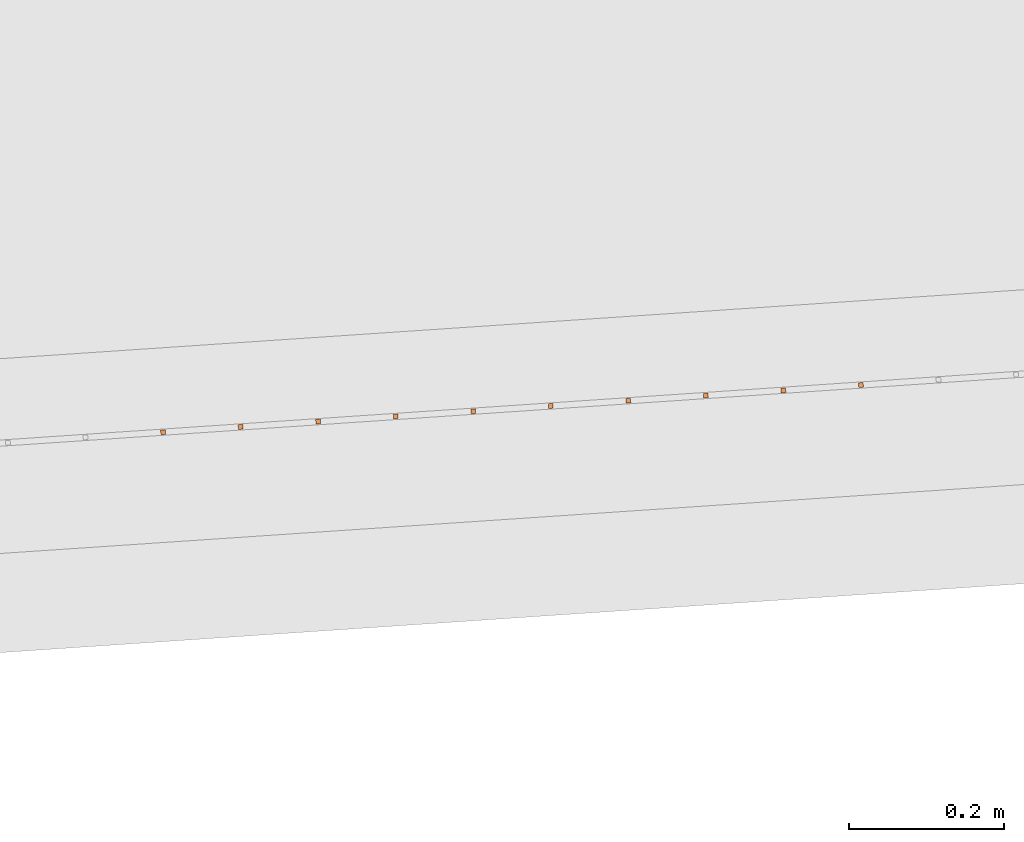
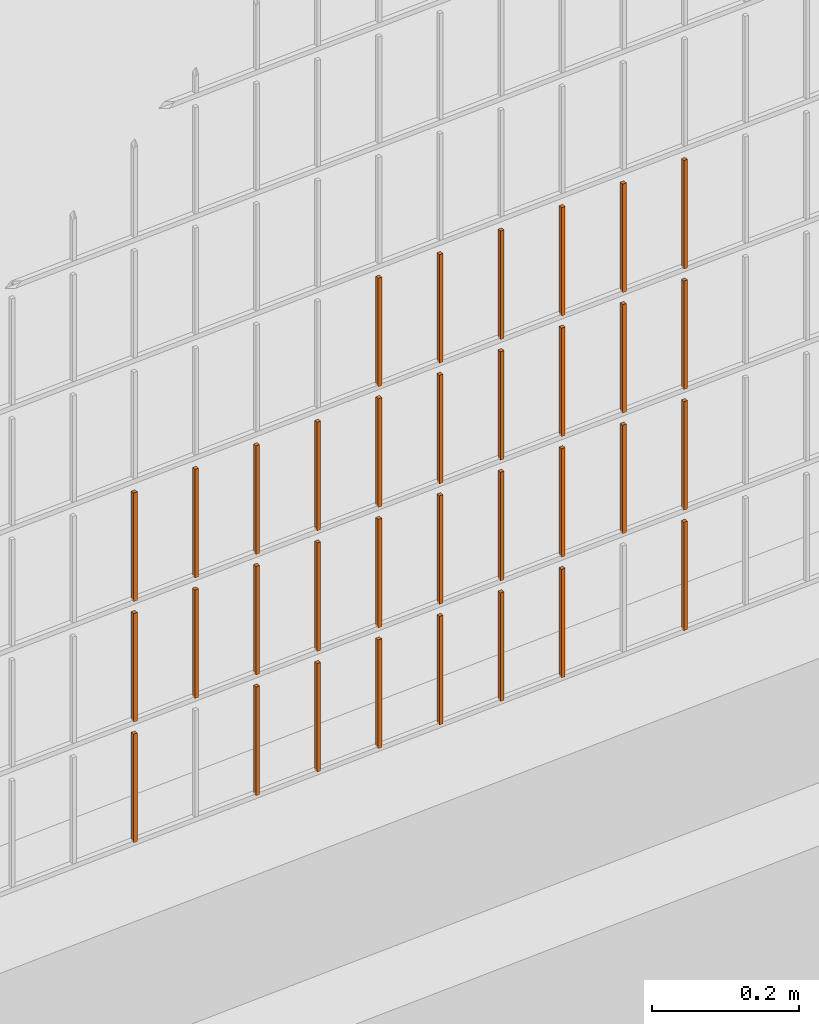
# One storey, part 280 of 1809: 34 proxies, 1 element without a shape of its own.
"""IFC2X3 building model written with IfcOpenShell, lengths in millimetres."""

import ifcopenshell
import ifcopenshell.guid

model = None  # the IFC model being written
_history = None  # IfcOwnerHistory: only IFC2X3 demands one
_inside = {}  # id of a spatial element -> (the spatial element, [elements in it])
_under = {}  # id of a project, library or spatial element -> (it, [spatial elements below it])
_declared = {}  # id of a project -> (the project, [libraries it declares])
_typed = {}  # id of a type object -> (the type object, [elements of that type])
_made_of = {}  # id of a material, layer set ... -> (it, [elements and type objects made of it])


def new_model(schema):
    """Start an empty IFC model of exactly this schema.

    Asked for "IFC4X3", IfcOpenShell would pick the latest addendum, in which some entities
    have other attributes; the version numbers below select the first issue.
    IFC2X3 requires an IfcOwnerHistory on every rooted entity: one is made here for all.
    """
    global model, _history
    if schema == "IFC4X3":
        model = ifcopenshell.file(schema_version=(4, 3, 0, 0))
    else:
        model = ifcopenshell.file(schema=schema)
    _inside.clear()
    _under.clear()
    _declared.clear()
    _typed.clear()
    _made_of.clear()
    _history = None
    if model.schema == "IFC2X3":
        org = make("IfcOrganization", Name="unknown")
        user = make(
            "IfcPersonAndOrganization",
            ThePerson=make("IfcPerson", FamilyName="unknown"),
            TheOrganization=org,
        )
        app = make(
            "IfcApplication",
            ApplicationDeveloper=org,
            Version="unknown",
            ApplicationFullName="unknown",
            ApplicationIdentifier="unknown",
        )
        _history = make(
            "IfcOwnerHistory",
            OwningUser=user,
            OwningApplication=app,
            ChangeAction="ADDED",
            CreationDate=0,
        )
    return model


def make(cls, **values):
    """One entity of the class cls with the attributes given. An attribute that is None is left unset."""
    return model.create_entity(
        cls, **{name: value for name, value in values.items() if value is not None}
    )


def entity(cls, *values):
    """Any entity or typed value of the class cls, its attributes in the order of the schema. None: left unset."""
    e = model.create_entity(cls)
    for i, value in enumerate(values):
        if value is not None:
            e[i] = value
    return e


def rooted(cls, **values):
    """An entity with a GlobalId (a new one), such as an element, a storey or a relation."""
    return make(cls, GlobalId=ifcopenshell.guid.new(), OwnerHistory=_history, **values)


def si_unit(unit_type, name, prefix=None):
    """IfcSIUnit, for example si_unit("LENGTHUNIT", "METRE", prefix="MILLI")."""
    return make("IfcSIUnit", UnitType=unit_type, Prefix=prefix, Name=name)


def converted_unit(unit_type, name, factor, base, dimensions=None, offset=None):
    """IfcConversionBasedUnit, such as the inch: factor (a typed value) times the base unit."""
    return make(
        "IfcConversionBasedUnit"
        if offset is None
        else "IfcConversionBasedUnitWithOffset",
        ConversionOffset=offset,
        Dimensions=None
        if dimensions is None
        else entity("IfcDimensionalExponents", *dimensions),
        UnitType=unit_type,
        Name=name,
        ConversionFactor=make(
            "IfcMeasureWithUnit", ValueComponent=factor, UnitComponent=base
        ),
    )


def derived_unit(unit_type, elements):
    """IfcDerivedUnit: a product of units, each with its exponent."""
    return make(
        "IfcDerivedUnit",
        Elements=[
            make("IfcDerivedUnitElement", Unit=unit, Exponent=power)
            for unit, power in elements
        ],
        UnitType=unit_type,
    )


def money_unit(currency):
    """IfcMonetaryUnit."""
    return make("IfcMonetaryUnit", Currency=currency)


def assignment(units):
    """IfcUnitAssignment: the units of a project."""
    return None if units is None else make("IfcUnitAssignment", Units=units)


def point(xyz):
    """IfcCartesianPoint."""
    return None if xyz is None else make("IfcCartesianPoint", Coordinates=xyz)


def direction(xyz):
    """IfcDirection."""
    return None if xyz is None else make("IfcDirection", DirectionRatios=xyz)


def frame(location, z_axis=None, x_axis=None):
    """IfcAxis2Placement3D, a coordinate frame: its origin and axes. An axis left out is left unset."""
    return make(
        "IfcAxis2Placement3D",
        Location=point(location),
        Axis=direction(z_axis),
        RefDirection=direction(x_axis),
    )


def origin_with_axes():
    """The frame at (0, 0, 0) with the z axis (0, 0, 1) and the x axis (1, 0, 0) written out."""
    return frame((0.0, 0.0, 0.0), z_axis=(0.0, 0.0, 1.0), x_axis=(1.0, 0.0, 0.0))


def place(relative_to, where):
    """IfcLocalPlacement: puts the frame where relative to a parent placement (None: the world)."""
    return make(
        "IfcLocalPlacement", PlacementRelTo=relative_to, RelativePlacement=where
    )


def context(
    kind, dimensions, precision=None, world=None, true_north=None, identifier=None
):
    """IfcGeometricRepresentationContext, for example the 3D "Model" context."""
    return make(
        "IfcGeometricRepresentationContext",
        ContextIdentifier=identifier,
        ContextType=kind,
        CoordinateSpaceDimension=dimensions,
        Precision=precision,
        WorldCoordinateSystem=world,
        TrueNorth=true_north,
    )


def subcontext(parent, identifier, kind, view, scale=None):
    """IfcGeometricRepresentationSubContext, for example "Body" below "Model"."""
    return make(
        "IfcGeometricRepresentationSubContext",
        ContextIdentifier=identifier,
        ContextType=kind,
        ParentContext=parent,
        TargetScale=scale,
        TargetView=view,
    )


def project(units=None, contexts=None):
    """IfcProject with its units and contexts."""
    return rooted(
        "IfcProject",
        Name="project",
        RepresentationContexts=contexts,
        UnitsInContext=assignment(units),
    )


def spatial(cls, under=None, at=None, **own):
    """A site, building, storey or space (cls), placed at a placement, below another one or the project."""
    s = rooted(cls, ObjectPlacement=at, **own)
    if under is not None:
        _under.setdefault(under.id(), (under, []))[1].append(s)
    return s


def faces_of(points, faces, orient=None, outer=None):
    """IfcFace entities. A face is a list of loops; a loop is a list of indices into points, from 0.

    orient and outer hold one flag for each loop. By default every Orientation is true, the
    first loop of a face is its IfcFaceOuterBound and the others are IfcFaceBound.
    """
    made = []
    for i, loops in enumerate(faces):
        bounds = []
        for j, loop in enumerate(loops):
            is_outer = j == 0 if outer is None else outer[i][j]
            bounds.append(
                make(
                    "IfcFaceOuterBound" if is_outer else "IfcFaceBound",
                    Bound=make("IfcPolyLoop", Polygon=[points[k] for k in loop]),
                    Orientation=True if orient is None else orient[i][j],
                )
            )
        made.append(make("IfcFace", Bounds=bounds))
    return made


def faceted_brep(points, faces, orient=None, outer=None, voids=None):
    """IfcFacetedBrep: a solid bounded by flat faces; with voids (closed shells), ...WithVoids."""
    shared = [point(p) for p in points]
    hull = make("IfcClosedShell", CfsFaces=faces_of(shared, faces, orient, outer))
    if voids is None:
        return make("IfcFacetedBrep", Outer=hull)
    return make(
        "IfcFacetedBrepWithVoids",
        Outer=hull,
        Voids=[
            make(cls, CfsFaces=faces_of(shared, fs, o, b)) for cls, fs, o, b in voids
        ],
    )


def shape(context_of_items, identifier, shape_type, items):
    """IfcShapeRepresentation: the items that make up one representation, for example the "Body"."""
    return make(
        "IfcShapeRepresentation",
        ContextOfItems=context_of_items,
        RepresentationIdentifier=identifier,
        RepresentationType=shape_type,
        Items=items,
    )


def source(mapping_origin, context_of_items, identifier, shape_type, items):
    """IfcRepresentationMap: a shape defined once, which mapped items show again and again."""
    return make(
        "IfcRepresentationMap",
        MappingOrigin=mapping_origin,
        MappedRepresentation=shape(context_of_items, identifier, shape_type, items),
    )


def transform(
    local_origin,
    x_axis=None,
    y_axis=None,
    z_axis=None,
    scale=None,
    scale2=None,
    scale3=None,
    uniform=True,
):
    """IfcCartesianTransformationOperator3D, or its non-uniform kind. x_axis, y_axis, z_axis: its Axis1, 2, 3."""
    if uniform:
        return make(
            "IfcCartesianTransformationOperator3D",
            Axis1=direction(x_axis),
            Axis2=direction(y_axis),
            LocalOrigin=point(local_origin),
            Scale=scale,
            Axis3=direction(z_axis),
        )
    return make(
        "IfcCartesianTransformationOperator3DnonUniform",
        Axis1=direction(x_axis),
        Axis2=direction(y_axis),
        LocalOrigin=point(local_origin),
        Scale=scale,
        Axis3=direction(z_axis),
        Scale2=scale2,
        Scale3=scale3,
    )


def mapped(mapping_source, mapping_target):
    """IfcMappedItem: shows the shape of a source again, moved by a transform."""
    return make(
        "IfcMappedItem", MappingSource=mapping_source, MappingTarget=mapping_target
    )


def material(Name=None, Category=None):
    """IfcMaterial."""
    return make("IfcMaterial", Name=Name, Category=Category)


def made_of(thing, what):
    """Note that an element or type object is made of a material, layer set ...; save() writes the relation."""
    if what is not None:
        _made_of.setdefault(what.id(), (what, []))[1].append(thing)
    return thing


def type_object(cls, material=None, **own):
    """A type object (cls), such as IfcWallType, which elements share."""
    return made_of(rooted(cls, **own), material)


def element(
    cls,
    number,
    at=None,
    inside=None,
    cuts=None,
    type_object=None,
    material=None,
    context=None,
    identifier="Body",
    shape_type=None,
    held_by="IfcProductDefinitionShape",
    body=None,
    shapes=None,
    **own,
):
    """One element of the class cls, such as IfcWall. Its Tag is "e" and its number.

    at: its placement. inside: the storey or other place that contains it. cuts: it is an
    opening in that element (IfcRelVoidsElement). A single representation is given by context,
    identifier, shape_type and body (its items); several are given by shapes. held_by: the class
    of the entity that holds the representations. save() writes the other relations.
    """
    e = rooted(cls, Tag="e%d" % number, ObjectPlacement=at, **own)
    if body is not None:
        shapes = [shape(context, identifier, shape_type, body)]
    if shapes is not None:
        e.Representation = make(held_by, Representations=shapes)
    if inside is not None:
        _inside.setdefault(inside.id(), (inside, []))[1].append(e)
    if cuts is not None:
        rooted(
            "IfcRelVoidsElement", RelatingBuildingElement=cuts, RelatedOpeningElement=e
        )
    if type_object is not None:
        _typed.setdefault(type_object.id(), (type_object, []))[1].append(e)
    return made_of(e, material)


def aggregate(whole, parts):
    """IfcRelAggregates: a whole, such as a stair, and the parts it consists of."""
    return rooted("IfcRelAggregates", RelatingObject=whole, RelatedObjects=parts)


def save(model, path):
    """Write the relations noted so far, then the file.

    IfcRelAggregates (storeys below a building ...), IfcRelContainedInSpatialStructure (elements
    in a storey), IfcRelDefinesByType, IfcRelAssociatesMaterial and IfcRelDeclares: one each for
    every whole, place, type object, material and project.
    """
    for whole, parts in _under.values():
        aggregate(whole, parts)
    for where, things in _inside.values():
        rooted(
            "IfcRelContainedInSpatialStructure",
            RelatedElements=things,
            RelatingStructure=where,
        )
    for kind, things in _typed.values():
        rooted("IfcRelDefinesByType", RelatedObjects=things, RelatingType=kind)
    for what, things in _made_of.values():
        rooted("IfcRelAssociatesMaterial", RelatedObjects=things, RelatingMaterial=what)
    for by, libraries in _declared.values():
        rooted("IfcRelDeclares", RelatingContext=by, RelatedDefinitions=libraries)
    model.write(path)


model = new_model("IFC2X3")

# Units and contexts
model_context = context("Model", 3, precision=0.01, world=origin_with_axes(), true_north=direction((0.0, 1.0)))
body_context = subcontext(model_context, "Body", "Model", "MODEL_VIEW")
ifc_project = project(units=[si_unit("LENGTHUNIT", "METRE", prefix="MILLI"), si_unit("AREAUNIT", "SQUARE_METRE"), si_unit("VOLUMEUNIT", "CUBIC_METRE"), converted_unit("PLANEANGLEUNIT", "DEGREE", entity("IfcPlaneAngleMeasure", 0.0174532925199), si_unit("PLANEANGLEUNIT", "RADIAN"), dimensions=[0, 0, 0, 0, 0, 0, 0]), si_unit("SOLIDANGLEUNIT", "STERADIAN"), money_unit("EUR"), converted_unit("TIMEUNIT", "Year", entity("IfcTimeMeasure", 31556926.0), si_unit("TIMEUNIT", "SECOND"), dimensions=[0, 0, 1, 0, 0, 0, 0]), si_unit("MASSUNIT", "GRAM", prefix="KILO"), si_unit("THERMODYNAMICTEMPERATUREUNIT", "DEGREE_CELSIUS"), si_unit("LUMINOUSINTENSITYUNIT", "LUMEN"), si_unit("ENERGYUNIT", "JOULE", prefix="MEGA"), derived_unit("THERMALCONDUCTANCEUNIT", [(si_unit("POWERUNIT", "WATT"), 1), (si_unit("LENGTHUNIT", "METRE"), -1), (si_unit("THERMODYNAMICTEMPERATUREUNIT", "KELVIN"), -1)]), derived_unit("SPECIFICHEATCAPACITYUNIT", [(si_unit("ENERGYUNIT", "JOULE"), 1), (si_unit("MASSUNIT", "GRAM", prefix="KILO"), -1), (si_unit("THERMODYNAMICTEMPERATUREUNIT", "KELVIN"), -1)]), derived_unit("MASSDENSITYUNIT", [(si_unit("MASSUNIT", "GRAM", prefix="KILO"), 1), (si_unit("VOLUMEUNIT", "CUBIC_METRE"), -1)])], contexts=[model_context])

# Site, building, storey
site_placement = place(None, origin_with_axes())
site = spatial("IfcSite", under=ifc_project, at=site_placement, Name="Politse- ja Piirivalveameti ning Päästeameti ühishoone", CompositionType="ELEMENT")
building_placement = place(site_placement, origin_with_axes())
building = spatial("IfcBuilding", under=site, at=building_placement, Name="Politse- ja Piirivalveameti ning Päästeameti ühishoone", CompositionType="ELEMENT")
storey_placement = place(building_placement, origin_with_axes())
storey = spatial("IfcBuildingStorey", under=building, at=storey_placement, Name="Esimene korrus", CompositionType="ELEMENT", Elevation=0.0)

# Proxies
building_element_proxy_type_1 = type_object("IfcBuildingElementProxyType", Name="Railing Type", PredefinedType="NOTDEFINED")
proxy_1_placement = place(storey_placement, frame((89252.001212, -29183.4766571, 203.661247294), z_axis=(0.0, 0.0, 1.0), x_axis=(1.0, 0.0, 0.0)))
proxy_1 = element("IfcBuildingElementProxy", 1, at=proxy_1_placement, inside=storey, type_object=building_element_proxy_type_1, Name="PIIRDEAED")
ifc_material = material(Name="ET-03_Raud")
building_element_proxy_type_2 = type_object("IfcBuildingElementProxyType", Name="IfcBuildingElementProxy", PredefinedType="NOTDEFINED")
shared_shape_1 = source(origin_with_axes(), body_context, "Body", "Brep", [
    faceted_brep([(3.0, 3.0, -0.000752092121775), (-3.0, 3.0, -0.000752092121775), (-3.0, 3.0, 179.99926046), (3.0, 3.0, 179.99926046), (3.0, -3.0, 0.000752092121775), (-3.0, -3.0, 0.000752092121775), (-3.0, -3.0, 180.000764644), (3.0, -3.0, 180.000764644)], [[[0, 1, 2, 3]], [[0, 4, 5, 1]], [[1, 5, 6, 2]], [[3, 2, 6, 7]], [[4, 0, 3, 7]], [[5, 4, 7, 6]]]),
])
proxy_2_placement = place(proxy_1_placement, frame((-50711.135031, -20723.120556, 14.4922683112), z_axis=(0.0, 0.0, 1.0), x_axis=(1.0, 0.0, 0.0)))
proxy_2 = element("IfcBuildingElementProxy", 2, at=proxy_2_placement, type_object=building_element_proxy_type_2, material=ifc_material, Name="BALUSTER - 001", context=body_context, shape_type="MappedRepresentation", body=[
    mapped(shared_shape_1, transform((0.0, 0.0, 0.0), x_axis=(-0.0673926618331, 0.997726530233, 0.0), y_axis=(-0.997726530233, -0.0673926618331, 0.0), z_axis=(0.0, 0.0, 1.0))),
])
shared_shape_2 = source(origin_with_axes(), body_context, "Body", "Brep", [
    faceted_brep([(3.0, 3.0, -0.000752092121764), (-3.0, 3.0, -0.000752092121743), (-3.0, 3.0, 179.99926046), (3.0, 3.0, 179.99926046), (3.0, -3.0, 0.000752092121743), (-3.0, -3.0, 0.000752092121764), (-3.0, -3.0, 180.000764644), (3.0, -3.0, 180.000764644)], [[[0, 1, 2, 3]], [[0, 4, 5, 1]], [[1, 5, 6, 2]], [[3, 2, 6, 7]], [[4, 0, 3, 7]], [[5, 4, 7, 6]]]),
])
proxy_3_placement = place(proxy_1_placement, frame((-51110.2256431, -20750.0776208, 14.3919893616), z_axis=(0.0, 0.0, 1.0), x_axis=(1.0, 0.0, 0.0)))
proxy_3 = element("IfcBuildingElementProxy", 3, at=proxy_3_placement, type_object=building_element_proxy_type_2, material=ifc_material, Name="BALUSTER - 001", context=body_context, shape_type="MappedRepresentation", body=[
    mapped(shared_shape_2, transform((0.0, 0.0, 0.0), x_axis=(-0.0673926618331, 0.997726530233, 0.0), y_axis=(-0.997726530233, -0.0673926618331, 0.0), z_axis=(0.0, 0.0, 1.0))),
])
shared_shape_3 = source(origin_with_axes(), body_context, "Body", "Brep", [
    faceted_brep([(3.0, 3.0, -0.000752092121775), (-3.0, 3.0, -0.000752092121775), (-3.0, 3.0, 179.99926046), (3.0, 3.0, 179.99926046), (3.0, -3.0, 0.000752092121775), (-3.0, -3.0, 0.000752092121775), (-3.0, -3.0, 180.000764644), (3.0, -3.0, 180.000764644)], [[[0, 1, 2, 3]], [[0, 4, 5, 1]], [[1, 5, 6, 2]], [[3, 2, 6, 7]], [[4, 0, 3, 7]], [[5, 4, 7, 6]]]),
])
proxy_4_placement = place(proxy_1_placement, frame((-50711.135031, -20723.120556, 414.492268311), z_axis=(0.0, 0.0, 1.0), x_axis=(1.0, 0.0, 0.0)))
proxy_4 = element("IfcBuildingElementProxy", 4, at=proxy_4_placement, type_object=building_element_proxy_type_2, material=ifc_material, Name="BALUSTER - 001", context=body_context, shape_type="MappedRepresentation", body=[
    mapped(shared_shape_3, transform((0.0, 0.0, 0.0), x_axis=(-0.0673926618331, 0.997726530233, 0.0), y_axis=(-0.997726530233, -0.0673926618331, 0.0), z_axis=(0.0, 0.0, 1.0))),
])
shared_shape_4 = source(origin_with_axes(), body_context, "Body", "Brep", [
    faceted_brep([(3.0, 3.0, -0.000752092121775), (-3.0, 3.0, -0.000752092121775), (-3.0, 3.0, 179.99926046), (3.0, 3.0, 179.99926046), (3.0, -3.0, 0.000752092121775), (-3.0, -3.0, 0.000752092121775), (-3.0, -3.0, 180.000764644), (3.0, -3.0, 180.000764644)], [[[0, 1, 2, 3]], [[0, 4, 5, 1]], [[1, 5, 6, 2]], [[3, 2, 6, 7]], [[4, 0, 3, 7]], [[5, 4, 7, 6]]]),
])
proxy_5_placement = place(proxy_1_placement, frame((-50711.135031, -20723.120556, 614.492268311), z_axis=(0.0, 0.0, 1.0), x_axis=(1.0, 0.0, 0.0)))
proxy_5 = element("IfcBuildingElementProxy", 5, at=proxy_5_placement, type_object=building_element_proxy_type_2, material=ifc_material, Name="BALUSTER - 001", context=body_context, shape_type="MappedRepresentation", body=[
    mapped(shared_shape_4, transform((0.0, 0.0, 0.0), x_axis=(-0.0673926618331, 0.997726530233, 0.0), y_axis=(-0.997726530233, -0.0673926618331, 0.0), z_axis=(0.0, 0.0, 1.0))),
])
shared_shape_5 = source(origin_with_axes(), body_context, "Body", "Brep", [
    faceted_brep([(3.0, 3.0, -0.000752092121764), (-3.0, 3.0, -0.000752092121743), (-3.0, 3.0, 179.99926046), (3.0, 3.0, 179.99926046), (3.0, -3.0, 0.000752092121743), (-3.0, -3.0, 0.000752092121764), (-3.0, -3.0, 180.000764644), (3.0, -3.0, 180.000764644)], [[[0, 1, 2, 3]], [[0, 4, 5, 1]], [[1, 5, 6, 2]], [[3, 2, 6, 7]], [[4, 0, 3, 7]], [[5, 4, 7, 6]]]),
])
proxy_6_placement = place(proxy_1_placement, frame((-50312.0444189, -20696.1634913, 414.592547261), z_axis=(0.0, 0.0, 1.0), x_axis=(1.0, 0.0, 0.0)))
proxy_6 = element("IfcBuildingElementProxy", 6, at=proxy_6_placement, type_object=building_element_proxy_type_2, material=ifc_material, Name="BALUSTER - 001", context=body_context, shape_type="MappedRepresentation", body=[
    mapped(shared_shape_5, transform((0.0, 0.0, 0.0), x_axis=(-0.0673926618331, 0.997726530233, 0.0), y_axis=(-0.997726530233, -0.0673926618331, 0.0), z_axis=(0.0, 0.0, 1.0))),
])
shared_shape_6 = source(origin_with_axes(), body_context, "Body", "Brep", [
    faceted_brep([(3.0, 3.0, -0.000752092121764), (-3.0, 3.0, -0.000752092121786), (-3.0, 3.0, 179.99926046), (3.0, 3.0, 179.99926046), (3.0, -3.0, 0.000752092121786), (-3.0, -3.0, 0.000752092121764), (-3.0, -3.0, 180.000764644), (3.0, -3.0, 180.000764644)], [[[0, 1, 2, 3]], [[0, 4, 5, 1]], [[1, 5, 6, 2]], [[3, 2, 6, 7]], [[4, 0, 3, 7]], [[5, 4, 7, 6]]]),
])
proxy_7_placement = place(proxy_1_placement, frame((-50810.907684, -20729.8598222, 414.467198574), z_axis=(0.0, 0.0, 1.0), x_axis=(1.0, 0.0, 0.0)))
proxy_7 = element("IfcBuildingElementProxy", 7, at=proxy_7_placement, type_object=building_element_proxy_type_2, material=ifc_material, Name="BALUSTER - 001", context=body_context, shape_type="MappedRepresentation", body=[
    mapped(shared_shape_6, transform((0.0, 0.0, 0.0), x_axis=(-0.0673926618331, 0.997726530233, 0.0), y_axis=(-0.997726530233, -0.0673926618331, 0.0), z_axis=(0.0, 0.0, 1.0))),
])
shared_shape_7 = source(origin_with_axes(), body_context, "Body", "Brep", [
    faceted_brep([(3.0, 3.0, -0.000752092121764), (-3.0, 3.0, -0.000752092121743), (-3.0, 3.0, 179.99926046), (3.0, 3.0, 179.99926046), (3.0, -3.0, 0.000752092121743), (-3.0, -3.0, 0.000752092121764), (-3.0, -3.0, 180.000764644), (3.0, -3.0, 180.000764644)], [[[0, 1, 2, 3]], [[0, 4, 5, 1]], [[1, 5, 6, 2]], [[3, 2, 6, 7]], [[4, 0, 3, 7]], [[5, 4, 7, 6]]]),
])
proxy_8_placement = place(proxy_1_placement, frame((-50312.0444189, -20696.1634913, 614.592547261), z_axis=(0.0, 0.0, 1.0), x_axis=(1.0, 0.0, 0.0)))
proxy_8 = element("IfcBuildingElementProxy", 8, at=proxy_8_placement, type_object=building_element_proxy_type_2, material=ifc_material, Name="BALUSTER - 001", context=body_context, shape_type="MappedRepresentation", body=[
    mapped(shared_shape_7, transform((0.0, 0.0, 0.0), x_axis=(-0.0673926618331, 0.997726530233, 0.0), y_axis=(-0.997726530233, -0.0673926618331, 0.0), z_axis=(0.0, 0.0, 1.0))),
])
shared_shape_8 = source(origin_with_axes(), body_context, "Body", "Brep", [
    faceted_brep([(3.0, 3.0, -0.000752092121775), (-3.0, 3.0, -0.000752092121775), (-3.0, 3.0, 179.99926046), (3.0, 3.0, 179.99926046), (3.0, -3.0, 0.000752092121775), (-3.0, -3.0, 0.000752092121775), (-3.0, -3.0, 180.000764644), (3.0, -3.0, 180.000764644)], [[[0, 1, 2, 3]], [[0, 4, 5, 1]], [[1, 5, 6, 2]], [[3, 2, 6, 7]], [[4, 0, 3, 7]], [[5, 4, 7, 6]]]),
])
proxy_9_placement = place(proxy_1_placement, frame((-50711.135031, -20723.120556, 214.492268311), z_axis=(0.0, 0.0, 1.0), x_axis=(1.0, 0.0, 0.0)))
proxy_9 = element("IfcBuildingElementProxy", 9, at=proxy_9_placement, type_object=building_element_proxy_type_2, material=ifc_material, Name="BALUSTER - 001", context=body_context, shape_type="MappedRepresentation", body=[
    mapped(shared_shape_8, transform((0.0, 0.0, 0.0), x_axis=(-0.0673926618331, 0.997726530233, 0.0), y_axis=(-0.997726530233, -0.0673926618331, 0.0), z_axis=(0.0, 0.0, 1.0))),
])
shared_shape_9 = source(origin_with_axes(), body_context, "Body", "Brep", [
    faceted_brep([(3.0, 3.0, -0.000752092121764), (-3.0, 3.0, -0.000752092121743), (-3.0, 3.0, 179.99926046), (3.0, 3.0, 179.99926046), (3.0, -3.0, 0.000752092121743), (-3.0, -3.0, 0.000752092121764), (-3.0, -3.0, 180.000764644), (3.0, -3.0, 180.000764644)], [[[0, 1, 2, 3]], [[0, 4, 5, 1]], [[1, 5, 6, 2]], [[3, 2, 6, 7]], [[4, 0, 3, 7]], [[5, 4, 7, 6]]]),
])
proxy_10_placement = place(proxy_1_placement, frame((-50312.0444189, -20696.1634913, 214.592547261), z_axis=(0.0, 0.0, 1.0), x_axis=(1.0, 0.0, 0.0)))
proxy_10 = element("IfcBuildingElementProxy", 10, at=proxy_10_placement, type_object=building_element_proxy_type_2, material=ifc_material, Name="BALUSTER - 001", context=body_context, shape_type="MappedRepresentation", body=[
    mapped(shared_shape_9, transform((0.0, 0.0, 0.0), x_axis=(-0.0673926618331, 0.997726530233, 0.0), y_axis=(-0.997726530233, -0.0673926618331, 0.0), z_axis=(0.0, 0.0, 1.0))),
])
proxy_11_placement = place(proxy_1_placement, frame((-51110.2256431, -20750.0776208, 214.391989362), z_axis=(0.0, 0.0, 1.0), x_axis=(1.0, 0.0, 0.0)))
proxy_11 = element("IfcBuildingElementProxy", 11, at=proxy_11_placement, type_object=building_element_proxy_type_2, material=ifc_material, Name="BALUSTER - 001", context=body_context, shape_type="MappedRepresentation", body=[
    mapped(shared_shape_9, transform((0.0, 0.0, 0.0), x_axis=(-0.0673926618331, 0.997726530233, 0.0), y_axis=(-0.997726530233, -0.0673926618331, 0.0), z_axis=(0.0, 0.0, 1.0))),
])
proxy_12_placement = place(proxy_1_placement, frame((-51110.2256431, -20750.0776208, 414.391989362), z_axis=(0.0, 0.0, 1.0), x_axis=(1.0, 0.0, 0.0)))
proxy_12 = element("IfcBuildingElementProxy", 12, at=proxy_12_placement, type_object=building_element_proxy_type_2, material=ifc_material, Name="BALUSTER - 001", context=body_context, shape_type="MappedRepresentation", body=[
    mapped(shared_shape_9, transform((0.0, 0.0, 0.0), x_axis=(-0.0673926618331, 0.997726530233, 0.0), y_axis=(-0.997726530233, -0.0673926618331, 0.0), z_axis=(0.0, 0.0, 1.0))),
])
shared_shape_10 = source(origin_with_axes(), body_context, "Body", "Brep", [
    faceted_brep([(3.0, 3.0, -0.000752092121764), (-3.0, 3.0, -0.000752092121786), (-3.0, 3.0, 179.99926046), (3.0, 3.0, 179.99926046), (3.0, -3.0, 0.000752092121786), (-3.0, -3.0, 0.000752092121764), (-3.0, -3.0, 180.000764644), (3.0, -3.0, 180.000764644)], [[[0, 1, 2, 3]], [[0, 4, 5, 1]], [[1, 5, 6, 2]], [[3, 2, 6, 7]], [[4, 0, 3, 7]], [[5, 4, 7, 6]]]),
])
proxy_13_placement = place(proxy_1_placement, frame((-50810.907684, -20729.8598222, 14.4671985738), z_axis=(0.0, 0.0, 1.0), x_axis=(1.0, 0.0, 0.0)))
proxy_13 = element("IfcBuildingElementProxy", 13, at=proxy_13_placement, type_object=building_element_proxy_type_2, material=ifc_material, Name="BALUSTER - 001", context=body_context, shape_type="MappedRepresentation", body=[
    mapped(shared_shape_10, transform((0.0, 0.0, 0.0), x_axis=(-0.0673926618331, 0.997726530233, 0.0), y_axis=(-0.997726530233, -0.0673926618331, 0.0), z_axis=(0.0, 0.0, 1.0))),
])
shared_shape_11 = source(origin_with_axes(), body_context, "Body", "Brep", [
    faceted_brep([(3.0, 3.0, -0.000752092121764), (-3.0, 3.0, -0.000752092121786), (-3.0, 3.0, 179.99926046), (3.0, 3.0, 179.99926046), (3.0, -3.0, 0.000752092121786), (-3.0, -3.0, 0.000752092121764), (-3.0, -3.0, 180.000764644), (3.0, -3.0, 180.000764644)], [[[0, 1, 2, 3]], [[0, 4, 5, 1]], [[1, 5, 6, 2]], [[3, 2, 6, 7]], [[4, 0, 3, 7]], [[5, 4, 7, 6]]]),
])
proxy_14_placement = place(proxy_1_placement, frame((-50810.907684, -20729.8598222, 214.467198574), z_axis=(0.0, 0.0, 1.0), x_axis=(1.0, 0.0, 0.0)))
proxy_14 = element("IfcBuildingElementProxy", 14, at=proxy_14_placement, type_object=building_element_proxy_type_2, material=ifc_material, Name="BALUSTER - 001", context=body_context, shape_type="MappedRepresentation", body=[
    mapped(shared_shape_11, transform((0.0, 0.0, 0.0), x_axis=(-0.0673926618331, 0.997726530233, 0.0), y_axis=(-0.997726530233, -0.0673926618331, 0.0), z_axis=(0.0, 0.0, 1.0))),
])
shared_shape_12 = source(origin_with_axes(), body_context, "Body", "Brep", [
    faceted_brep([(3.0, 3.0, -0.000752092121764), (-3.0, 3.0, -0.000752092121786), (-3.0, 3.0, 179.99926046), (3.0, 3.0, 179.99926046), (3.0, -3.0, 0.000752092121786), (-3.0, -3.0, 0.000752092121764), (-3.0, -3.0, 180.000764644), (3.0, -3.0, 180.000764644)], [[[0, 1, 2, 3]], [[0, 4, 5, 1]], [[1, 5, 6, 2]], [[3, 2, 6, 7]], [[4, 0, 3, 7]], [[5, 4, 7, 6]]]),
])
proxy_15_placement = place(proxy_1_placement, frame((-51010.4529901, -20743.3383546, 214.417059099), z_axis=(0.0, 0.0, 1.0), x_axis=(1.0, 0.0, 0.0)))
proxy_15 = element("IfcBuildingElementProxy", 15, at=proxy_15_placement, type_object=building_element_proxy_type_2, material=ifc_material, Name="BALUSTER - 001", context=body_context, shape_type="MappedRepresentation", body=[
    mapped(shared_shape_12, transform((0.0, 0.0, 0.0), x_axis=(-0.0673926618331, 0.997726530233, 0.0), y_axis=(-0.997726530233, -0.0673926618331, 0.0), z_axis=(0.0, 0.0, 1.0))),
])
shared_shape_13 = source(origin_with_axes(), body_context, "Body", "Brep", [
    faceted_brep([(3.0, 3.0, -0.000752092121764), (-3.0, 3.0, -0.000752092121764), (-3.0, 3.0, 179.99926046), (3.0, 3.0, 179.99926046), (3.0, -3.0, 0.000752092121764), (-3.0, -3.0, 0.000752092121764), (-3.0, -3.0, 180.000764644), (3.0, -3.0, 180.000764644)], [[[0, 1, 2, 3]], [[0, 4, 5, 1]], [[1, 5, 6, 2]], [[3, 2, 6, 7]], [[4, 0, 3, 7]], [[5, 4, 7, 6]]]),
])
proxy_16_placement = place(proxy_1_placement, frame((-50411.817072, -20702.9027575, 214.567477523), z_axis=(0.0, 0.0, 1.0), x_axis=(1.0, 0.0, 0.0)))
proxy_16 = element("IfcBuildingElementProxy", 16, at=proxy_16_placement, type_object=building_element_proxy_type_2, material=ifc_material, Name="BALUSTER - 001", context=body_context, shape_type="MappedRepresentation", body=[
    mapped(shared_shape_13, transform((0.0, 0.0, 0.0), x_axis=(-0.0673926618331, 0.997726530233, 0.0), y_axis=(-0.997726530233, -0.0673926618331, 0.0), z_axis=(0.0, 0.0, 1.0))),
])
proxy_17_placement = place(proxy_1_placement, frame((-50411.817072, -20702.9027575, 414.567477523), z_axis=(0.0, 0.0, 1.0), x_axis=(1.0, 0.0, 0.0)))
proxy_17 = element("IfcBuildingElementProxy", 17, at=proxy_17_placement, type_object=building_element_proxy_type_2, material=ifc_material, Name="BALUSTER - 001", context=body_context, shape_type="MappedRepresentation", body=[
    mapped(shared_shape_13, transform((0.0, 0.0, 0.0), x_axis=(-0.0673926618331, 0.997726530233, 0.0), y_axis=(-0.997726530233, -0.0673926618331, 0.0), z_axis=(0.0, 0.0, 1.0))),
])
shared_shape_14 = source(origin_with_axes(), body_context, "Body", "Brep", [
    faceted_brep([(3.0, 3.0, -0.000752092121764), (-3.0, 3.0, -0.000752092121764), (-3.0, 3.0, 179.99926046), (3.0, 3.0, 179.99926046), (3.0, -3.0, 0.000752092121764), (-3.0, -3.0, 0.000752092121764), (-3.0, -3.0, 180.000764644), (3.0, -3.0, 180.000764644)], [[[0, 1, 2, 3]], [[0, 4, 5, 1]], [[1, 5, 6, 2]], [[3, 2, 6, 7]], [[4, 0, 3, 7]], [[5, 4, 7, 6]]]),
])
proxy_18_placement = place(proxy_1_placement, frame((-50411.817072, -20702.9027575, 614.567477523), z_axis=(0.0, 0.0, 1.0), x_axis=(1.0, 0.0, 0.0)))
proxy_18 = element("IfcBuildingElementProxy", 18, at=proxy_18_placement, type_object=building_element_proxy_type_2, material=ifc_material, Name="BALUSTER - 001", context=body_context, shape_type="MappedRepresentation", body=[
    mapped(shared_shape_14, transform((0.0, 0.0, 0.0), x_axis=(-0.0673926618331, 0.997726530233, 0.0), y_axis=(-0.997726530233, -0.0673926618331, 0.0), z_axis=(0.0, 0.0, 1.0))),
])
shared_shape_15 = source(origin_with_axes(), body_context, "Body", "Brep", [
    faceted_brep([(3.0, 3.0, -0.000752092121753), (-3.0, 3.0, -0.000752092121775), (-3.0, 3.0, 179.99926046), (3.0, 3.0, 179.99926046), (3.0, -3.0, 0.000752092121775), (-3.0, -3.0, 0.000752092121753), (-3.0, -3.0, 180.000764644), (3.0, -3.0, 180.000764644)], [[[0, 1, 2, 3]], [[0, 4, 5, 1]], [[1, 5, 6, 2]], [[3, 2, 6, 7]], [[4, 0, 3, 7]], [[5, 4, 7, 6]]]),
])
proxy_19_placement = place(proxy_1_placement, frame((-50212.2717659, -20689.4242251, 14.6176169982), z_axis=(0.0, 0.0, 1.0), x_axis=(1.0, 0.0, 0.0)))
proxy_19 = element("IfcBuildingElementProxy", 19, at=proxy_19_placement, type_object=building_element_proxy_type_2, material=ifc_material, Name="BALUSTER - 001", context=body_context, shape_type="MappedRepresentation", body=[
    mapped(shared_shape_15, transform((0.0, 0.0, 0.0), x_axis=(-0.0673926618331, 0.997726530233, 0.0), y_axis=(-0.997726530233, -0.0673926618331, 0.0), z_axis=(0.0, 0.0, 1.0))),
])
proxy_20_placement = place(proxy_1_placement, frame((-50212.2717659, -20689.4242251, 214.617616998), z_axis=(0.0, 0.0, 1.0), x_axis=(1.0, 0.0, 0.0)))
proxy_20 = element("IfcBuildingElementProxy", 20, at=proxy_20_placement, type_object=building_element_proxy_type_2, material=ifc_material, Name="BALUSTER - 001", context=body_context, shape_type="MappedRepresentation", body=[
    mapped(shared_shape_15, transform((0.0, 0.0, 0.0), x_axis=(-0.0673926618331, 0.997726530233, 0.0), y_axis=(-0.997726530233, -0.0673926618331, 0.0), z_axis=(0.0, 0.0, 1.0))),
])
shared_shape_16 = source(origin_with_axes(), body_context, "Body", "Brep", [
    faceted_brep([(3.0, 3.0, -0.000752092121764), (-3.0, 3.0, -0.000752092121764), (-3.0, 3.0, 179.99926046), (3.0, 3.0, 179.99926046), (3.0, -3.0, 0.000752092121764), (-3.0, -3.0, 0.000752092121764), (-3.0, -3.0, 180.000764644), (3.0, -3.0, 180.000764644)], [[[0, 1, 2, 3]], [[0, 4, 5, 1]], [[1, 5, 6, 2]], [[3, 2, 6, 7]], [[4, 0, 3, 7]], [[5, 4, 7, 6]]]),
])
proxy_21_placement = place(proxy_1_placement, frame((-50611.362378, -20716.3812898, 14.5173380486), z_axis=(0.0, 0.0, 1.0), x_axis=(1.0, 0.0, 0.0)))
proxy_21 = element("IfcBuildingElementProxy", 21, at=proxy_21_placement, type_object=building_element_proxy_type_2, material=ifc_material, Name="BALUSTER - 001", context=body_context, shape_type="MappedRepresentation", body=[
    mapped(shared_shape_16, transform((0.0, 0.0, 0.0), x_axis=(-0.0673926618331, 0.997726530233, 0.0), y_axis=(-0.997726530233, -0.0673926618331, 0.0), z_axis=(0.0, 0.0, 1.0))),
])
shared_shape_17 = source(origin_with_axes(), body_context, "Body", "Brep", [
    faceted_brep([(3.0, 3.0, -0.000752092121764), (-3.0, 3.0, -0.000752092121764), (-3.0, 3.0, 179.99926046), (3.0, 3.0, 179.99926046), (3.0, -3.0, 0.000752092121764), (-3.0, -3.0, 0.000752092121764), (-3.0, -3.0, 180.000764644), (3.0, -3.0, 180.000764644)], [[[0, 1, 2, 3]], [[0, 4, 5, 1]], [[1, 5, 6, 2]], [[3, 2, 6, 7]], [[4, 0, 3, 7]], [[5, 4, 7, 6]]]),
])
proxy_22_placement = place(proxy_1_placement, frame((-50511.589725, -20709.6420237, 14.542407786), z_axis=(0.0, 0.0, 1.0), x_axis=(1.0, 0.0, 0.0)))
proxy_22 = element("IfcBuildingElementProxy", 22, at=proxy_22_placement, type_object=building_element_proxy_type_2, material=ifc_material, Name="BALUSTER - 001", context=body_context, shape_type="MappedRepresentation", body=[
    mapped(shared_shape_17, transform((0.0, 0.0, 0.0), x_axis=(-0.0673926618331, 0.997726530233, 0.0), y_axis=(-0.997726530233, -0.0673926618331, 0.0), z_axis=(0.0, 0.0, 1.0))),
])
shared_shape_18 = source(origin_with_axes(), body_context, "Body", "Brep", [
    faceted_brep([(3.0, 3.0, -0.000752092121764), (-3.0, 3.0, -0.000752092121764), (-3.0, 3.0, 179.99926046), (3.0, 3.0, 179.99926046), (3.0, -3.0, 0.000752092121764), (-3.0, -3.0, 0.000752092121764), (-3.0, -3.0, 180.000764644), (3.0, -3.0, 180.000764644)], [[[0, 1, 2, 3]], [[0, 4, 5, 1]], [[1, 5, 6, 2]], [[3, 2, 6, 7]], [[4, 0, 3, 7]], [[5, 4, 7, 6]]]),
])
proxy_23_placement = place(proxy_1_placement, frame((-50511.589725, -20709.6420237, 414.542407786), z_axis=(0.0, 0.0, 1.0), x_axis=(1.0, 0.0, 0.0)))
proxy_23 = element("IfcBuildingElementProxy", 23, at=proxy_23_placement, type_object=building_element_proxy_type_2, material=ifc_material, Name="BALUSTER - 001", context=body_context, shape_type="MappedRepresentation", body=[
    mapped(shared_shape_18, transform((0.0, 0.0, 0.0), x_axis=(-0.0673926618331, 0.997726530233, 0.0), y_axis=(-0.997726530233, -0.0673926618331, 0.0), z_axis=(0.0, 0.0, 1.0))),
])
proxy_24_placement = place(proxy_1_placement, frame((-50611.362378, -20716.3812898, 414.517338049), z_axis=(0.0, 0.0, 1.0), x_axis=(1.0, 0.0, 0.0)))
proxy_24 = element("IfcBuildingElementProxy", 24, at=proxy_24_placement, type_object=building_element_proxy_type_2, material=ifc_material, Name="BALUSTER - 001", context=body_context, shape_type="MappedRepresentation", body=[
    mapped(shared_shape_18, transform((0.0, 0.0, 0.0), x_axis=(-0.0673926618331, 0.997726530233, 0.0), y_axis=(-0.997726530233, -0.0673926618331, 0.0), z_axis=(0.0, 0.0, 1.0))),
])
proxy_25_placement = place(proxy_1_placement, frame((-50511.589725, -20709.6420237, 614.542407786), z_axis=(0.0, 0.0, 1.0), x_axis=(1.0, 0.0, 0.0)))
proxy_25 = element("IfcBuildingElementProxy", 25, at=proxy_25_placement, type_object=building_element_proxy_type_2, material=ifc_material, Name="BALUSTER - 001", context=body_context, shape_type="MappedRepresentation", body=[
    mapped(shared_shape_18, transform((0.0, 0.0, 0.0), x_axis=(-0.0673926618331, 0.997726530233, 0.0), y_axis=(-0.997726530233, -0.0673926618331, 0.0), z_axis=(0.0, 0.0, 1.0))),
])
proxy_26_placement = place(proxy_1_placement, frame((-50611.362378, -20716.3812898, 614.517338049), z_axis=(0.0, 0.0, 1.0), x_axis=(1.0, 0.0, 0.0)))
proxy_26 = element("IfcBuildingElementProxy", 26, at=proxy_26_placement, type_object=building_element_proxy_type_2, material=ifc_material, Name="BALUSTER - 001", context=body_context, shape_type="MappedRepresentation", body=[
    mapped(shared_shape_18, transform((0.0, 0.0, 0.0), x_axis=(-0.0673926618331, 0.997726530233, 0.0), y_axis=(-0.997726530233, -0.0673926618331, 0.0), z_axis=(0.0, 0.0, 1.0))),
])
shared_shape_19 = source(origin_with_axes(), body_context, "Body", "Brep", [
    faceted_brep([(3.0, 3.0, -0.000752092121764), (-3.0, 3.0, -0.000752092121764), (-3.0, 3.0, 179.99926046), (3.0, 3.0, 179.99926046), (3.0, -3.0, 0.000752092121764), (-3.0, -3.0, 0.000752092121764), (-3.0, -3.0, 180.000764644), (3.0, -3.0, 180.000764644)], [[[0, 1, 2, 3]], [[0, 4, 5, 1]], [[1, 5, 6, 2]], [[3, 2, 6, 7]], [[4, 0, 3, 7]], [[5, 4, 7, 6]]]),
])
proxy_27_placement = place(proxy_1_placement, frame((-50511.589725, -20709.6420237, 214.542407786), z_axis=(0.0, 0.0, 1.0), x_axis=(1.0, 0.0, 0.0)))
proxy_27 = element("IfcBuildingElementProxy", 27, at=proxy_27_placement, type_object=building_element_proxy_type_2, material=ifc_material, Name="BALUSTER - 001", context=body_context, shape_type="MappedRepresentation", body=[
    mapped(shared_shape_19, transform((0.0, 0.0, 0.0), x_axis=(-0.0673926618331, 0.997726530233, 0.0), y_axis=(-0.997726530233, -0.0673926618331, 0.0), z_axis=(0.0, 0.0, 1.0))),
])
shared_shape_20 = source(origin_with_axes(), body_context, "Body", "Brep", [
    faceted_brep([(3.0, 3.0, -0.000752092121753), (-3.0, 3.0, -0.000752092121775), (-3.0, 3.0, 179.99926046), (3.0, 3.0, 179.99926046), (3.0, -3.0, 0.000752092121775), (-3.0, -3.0, 0.000752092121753), (-3.0, -3.0, 180.000764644), (3.0, -3.0, 180.000764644)], [[[0, 1, 2, 3]], [[0, 4, 5, 1]], [[1, 5, 6, 2]], [[3, 2, 6, 7]], [[4, 0, 3, 7]], [[5, 4, 7, 6]]]),
])
proxy_28_placement = place(proxy_1_placement, frame((-50212.2717659, -20689.4242251, 614.617616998), z_axis=(0.0, 0.0, 1.0), x_axis=(1.0, 0.0, 0.0)))
proxy_28 = element("IfcBuildingElementProxy", 28, at=proxy_28_placement, type_object=building_element_proxy_type_2, material=ifc_material, Name="BALUSTER - 001", context=body_context, shape_type="MappedRepresentation", body=[
    mapped(shared_shape_20, transform((0.0, 0.0, 0.0), x_axis=(-0.0673926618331, 0.997726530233, 0.0), y_axis=(-0.997726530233, -0.0673926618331, 0.0), z_axis=(0.0, 0.0, 1.0))),
])
shared_shape_21 = source(origin_with_axes(), body_context, "Body", "Brep", [
    faceted_brep([(3.0, 3.0, -0.000752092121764), (-3.0, 3.0, -0.000752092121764), (-3.0, 3.0, 179.99926046), (3.0, 3.0, 179.99926046), (3.0, -3.0, 0.000752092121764), (-3.0, -3.0, 0.000752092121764), (-3.0, -3.0, 180.000764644), (3.0, -3.0, 180.000764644)], [[[0, 1, 2, 3]], [[0, 4, 5, 1]], [[1, 5, 6, 2]], [[3, 2, 6, 7]], [[4, 0, 3, 7]], [[5, 4, 7, 6]]]),
])
proxy_29_placement = place(proxy_1_placement, frame((-50411.817072, -20702.9027575, 14.5674775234), z_axis=(0.0, 0.0, 1.0), x_axis=(1.0, 0.0, 0.0)))
proxy_29 = element("IfcBuildingElementProxy", 29, at=proxy_29_placement, type_object=building_element_proxy_type_2, material=ifc_material, Name="BALUSTER - 001", context=body_context, shape_type="MappedRepresentation", body=[
    mapped(shared_shape_21, transform((0.0, 0.0, 0.0), x_axis=(-0.0673926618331, 0.997726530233, 0.0), y_axis=(-0.997726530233, -0.0673926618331, 0.0), z_axis=(0.0, 0.0, 1.0))),
])
shared_shape_22 = source(origin_with_axes(), body_context, "Body", "Brep", [
    faceted_brep([(3.0, 3.0, -0.000752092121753), (-3.0, 3.0, -0.000752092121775), (-3.0, 3.0, 179.99926046), (3.0, 3.0, 179.99926046), (3.0, -3.0, 0.000752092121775), (-3.0, -3.0, 0.000752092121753), (-3.0, -3.0, 180.000764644), (3.0, -3.0, 180.000764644)], [[[0, 1, 2, 3]], [[0, 4, 5, 1]], [[1, 5, 6, 2]], [[3, 2, 6, 7]], [[4, 0, 3, 7]], [[5, 4, 7, 6]]]),
])
proxy_30_placement = place(proxy_1_placement, frame((-50212.2717659, -20689.4242251, 414.617616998), z_axis=(0.0, 0.0, 1.0), x_axis=(1.0, 0.0, 0.0)))
proxy_30 = element("IfcBuildingElementProxy", 30, at=proxy_30_placement, type_object=building_element_proxy_type_2, material=ifc_material, Name="BALUSTER - 001", context=body_context, shape_type="MappedRepresentation", body=[
    mapped(shared_shape_22, transform((0.0, 0.0, 0.0), x_axis=(-0.0673926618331, 0.997726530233, 0.0), y_axis=(-0.997726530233, -0.0673926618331, 0.0), z_axis=(0.0, 0.0, 1.0))),
])
shared_shape_23 = source(origin_with_axes(), body_context, "Body", "Brep", [
    faceted_brep([(3.0, 3.0, -0.000752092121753), (-3.0, 3.0, -0.000752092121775), (-3.0, 3.0, 179.99926046), (3.0, 3.0, 179.99926046), (3.0, -3.0, 0.000752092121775), (-3.0, -3.0, 0.000752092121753), (-3.0, -3.0, 180.000764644), (3.0, -3.0, 180.000764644)], [[[0, 1, 2, 3]], [[0, 4, 5, 1]], [[1, 5, 6, 2]], [[3, 2, 6, 7]], [[4, 0, 3, 7]], [[5, 4, 7, 6]]]),
])
proxy_31_placement = place(proxy_1_placement, frame((-50910.6803371, -20736.5990884, 214.442128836), z_axis=(0.0, 0.0, 1.0), x_axis=(1.0, 0.0, 0.0)))
proxy_31 = element("IfcBuildingElementProxy", 31, at=proxy_31_placement, type_object=building_element_proxy_type_2, material=ifc_material, Name="BALUSTER - 001", context=body_context, shape_type="MappedRepresentation", body=[
    mapped(shared_shape_23, transform((0.0, 0.0, 0.0), x_axis=(-0.0673926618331, 0.997726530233, 0.0), y_axis=(-0.997726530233, -0.0673926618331, 0.0), z_axis=(0.0, 0.0, 1.0))),
])
proxy_32_placement = place(proxy_1_placement, frame((-50910.6803371, -20736.5990884, 414.442128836), z_axis=(0.0, 0.0, 1.0), x_axis=(1.0, 0.0, 0.0)))
proxy_32 = element("IfcBuildingElementProxy", 32, at=proxy_32_placement, type_object=building_element_proxy_type_2, material=ifc_material, Name="BALUSTER - 001", context=body_context, shape_type="MappedRepresentation", body=[
    mapped(shared_shape_23, transform((0.0, 0.0, 0.0), x_axis=(-0.0673926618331, 0.997726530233, 0.0), y_axis=(-0.997726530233, -0.0673926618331, 0.0), z_axis=(0.0, 0.0, 1.0))),
])
shared_shape_24 = source(origin_with_axes(), body_context, "Body", "Brep", [
    faceted_brep([(3.0, 3.0, -0.000752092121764), (-3.0, 3.0, -0.000752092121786), (-3.0, 3.0, 179.99926046), (3.0, 3.0, 179.99926046), (3.0, -3.0, 0.000752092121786), (-3.0, -3.0, 0.000752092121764), (-3.0, -3.0, 180.000764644), (3.0, -3.0, 180.000764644)], [[[0, 1, 2, 3]], [[0, 4, 5, 1]], [[1, 5, 6, 2]], [[3, 2, 6, 7]], [[4, 0, 3, 7]], [[5, 4, 7, 6]]]),
])
proxy_33_placement = place(proxy_1_placement, frame((-51010.4529901, -20743.3383546, 414.417059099), z_axis=(0.0, 0.0, 1.0), x_axis=(1.0, 0.0, 0.0)))
proxy_33 = element("IfcBuildingElementProxy", 33, at=proxy_33_placement, type_object=building_element_proxy_type_2, material=ifc_material, Name="BALUSTER - 001", context=body_context, shape_type="MappedRepresentation", body=[
    mapped(shared_shape_24, transform((0.0, 0.0, 0.0), x_axis=(-0.0673926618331, 0.997726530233, 0.0), y_axis=(-0.997726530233, -0.0673926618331, 0.0), z_axis=(0.0, 0.0, 1.0))),
])
shared_shape_25 = source(origin_with_axes(), body_context, "Body", "Brep", [
    faceted_brep([(3.0, 3.0, -0.000752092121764), (-3.0, 3.0, -0.000752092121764), (-3.0, 3.0, 179.99926046), (3.0, 3.0, 179.99926046), (3.0, -3.0, 0.000752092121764), (-3.0, -3.0, 0.000752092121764), (-3.0, -3.0, 180.000764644), (3.0, -3.0, 180.000764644)], [[[0, 1, 2, 3]], [[0, 4, 5, 1]], [[1, 5, 6, 2]], [[3, 2, 6, 7]], [[4, 0, 3, 7]], [[5, 4, 7, 6]]]),
])
proxy_34_placement = place(proxy_1_placement, frame((-50611.362378, -20716.3812898, 214.517338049), z_axis=(0.0, 0.0, 1.0), x_axis=(1.0, 0.0, 0.0)))
proxy_34 = element("IfcBuildingElementProxy", 34, at=proxy_34_placement, type_object=building_element_proxy_type_2, material=ifc_material, Name="BALUSTER - 001", context=body_context, shape_type="MappedRepresentation", body=[
    mapped(shared_shape_25, transform((0.0, 0.0, 0.0), x_axis=(-0.0673926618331, 0.997726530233, 0.0), y_axis=(-0.997726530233, -0.0673926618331, 0.0), z_axis=(0.0, 0.0, 1.0))),
])
shared_shape_26 = source(origin_with_axes(), body_context, "Body", "Brep", [
    faceted_brep([(3.0, 3.0, -0.000752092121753), (-3.0, 3.0, -0.000752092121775), (-3.0, 3.0, 179.99926046), (3.0, 3.0, 179.99926046), (3.0, -3.0, 0.000752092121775), (-3.0, -3.0, 0.000752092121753), (-3.0, -3.0, 180.000764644), (3.0, -3.0, 180.000764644)], [[[0, 1, 2, 3]], [[0, 4, 5, 1]], [[1, 5, 6, 2]], [[3, 2, 6, 7]], [[4, 0, 3, 7]], [[5, 4, 7, 6]]]),
])
proxy_35_placement = place(proxy_1_placement, frame((-50910.6803371, -20736.5990884, 14.4421288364), z_axis=(0.0, 0.0, 1.0), x_axis=(1.0, 0.0, 0.0)))
proxy_35 = element("IfcBuildingElementProxy", 35, at=proxy_35_placement, type_object=building_element_proxy_type_2, material=ifc_material, Name="BALUSTER - 001", context=body_context, shape_type="MappedRepresentation", body=[
    mapped(shared_shape_26, transform((0.0, 0.0, 0.0), x_axis=(-0.0673926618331, 0.997726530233, 0.0), y_axis=(-0.997726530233, -0.0673926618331, 0.0), z_axis=(0.0, 0.0, 1.0))),
])
aggregate(proxy_1, [proxy_19, proxy_29, proxy_22, proxy_21, proxy_2, proxy_13, proxy_35, proxy_3, proxy_20, proxy_10, proxy_16, proxy_27, proxy_34, proxy_9, proxy_14, proxy_31, proxy_15, proxy_11, proxy_30, proxy_6, proxy_17, proxy_23, proxy_24, proxy_4, proxy_7, proxy_32, proxy_33, proxy_12, proxy_28, proxy_8, proxy_18, proxy_25, proxy_26, proxy_5])

save(model, "model.ifc")
